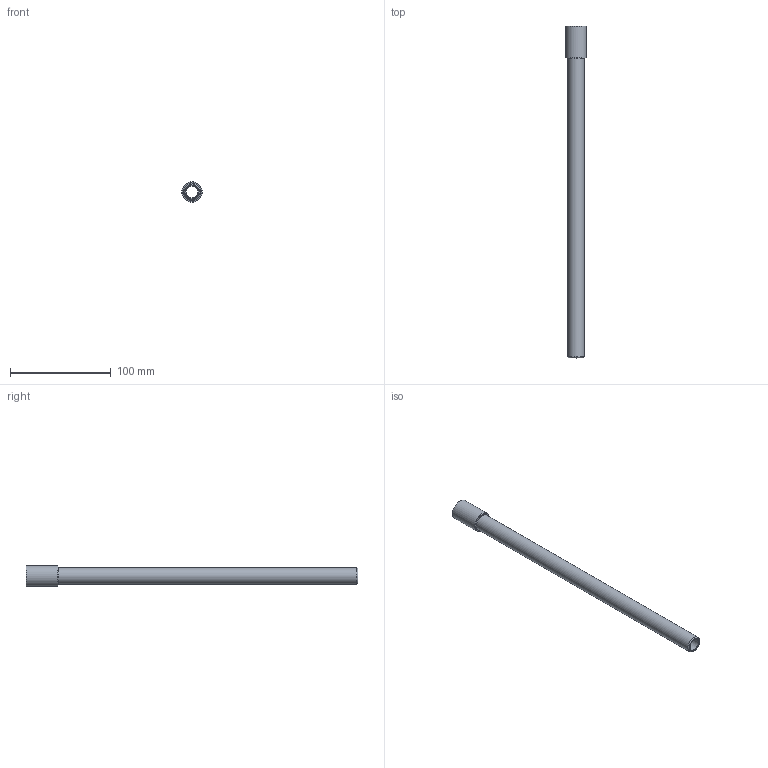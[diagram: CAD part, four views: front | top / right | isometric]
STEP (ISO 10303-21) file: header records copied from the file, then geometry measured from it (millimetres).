
FILE_DESCRIPTION(/* description */ (''),/* implementation_level */ '2;1');
FILE_NAME(/* name */ 'C:/Users/drich/Desktop/EP38X13 v1.step',/* time_stamp */ '2019-11-18T15:07:42-06:00',/* author */ (''),/* organization */ (''),/* preprocessor_version */ 'ST-DEVELOPER v18',/* originating_system */ 'Autodesk Translation Framework v8.12.0.6',/* authorisation */ '');
FILE_SCHEMA (('AUTOMOTIVE_DESIGN { 1 0 10303 214 3 1 1 }'));
Length unit declared in the file: inch
Products named in the file (2): EP38X13; EP38X4
Assembly tree (1 placements, depth 2):
  EP38X13
    EP38X4
Bounding box: 20.62 x 330.2 x 20.62 mm (x, y, z)
Volume: 36443.7 mm3; surface area: 30543.5 mm2
Topology: 1 solids, 1 shells, 23 faces, 55 edges, 37 vertices
Faces by surface type: plane 11, cone 7, cylinder 5
Full cylindrical faces by diameter (mm): 11.887 x1, 14.986 x1, 15.173 x1, 16.537 x1, 20.625 x1
Entity records: 740 total; most frequent: CARTESIAN_POINT 132, DIRECTION 124, ORIENTED_EDGE 110, EDGE_CURVE 55, AXIS2_PLACEMENT_3D 50, VERTEX_POINT 37, EDGE_LOOP 28, LINE 24
